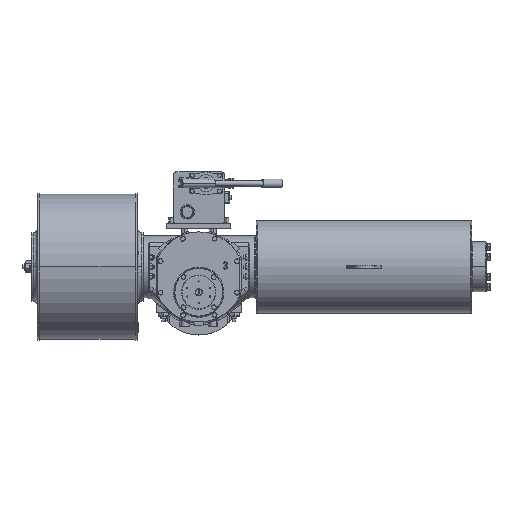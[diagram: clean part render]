
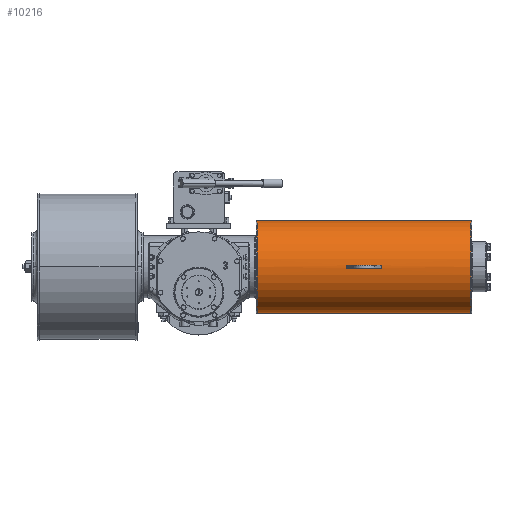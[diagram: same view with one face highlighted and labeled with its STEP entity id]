
A CAD part, top view. The second image highlights one B-rep face of the part: STEP entity #10216.
In plain terms, the highlighted cylindrical face has radius 162.5 mm (diameter 325 mm), a partial arc.
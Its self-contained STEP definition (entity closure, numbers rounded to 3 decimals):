
#42 = EDGE_CURVE ( 'NONE', #68941, #44743, #40491, .T. ) ;
#705 = ORIENTED_EDGE ( 'NONE', *, *, #67832, .T. ) ;
#1147 = CARTESIAN_POINT ( 'NONE',  ( 519.5, 40.5, 236.923 ) ) ;
#3742 = AXIS2_PLACEMENT_3D ( 'NONE', #52820, #29785, #22248 ) ;
#3833 = DIRECTION ( 'NONE',  ( 1., 0., 0. ) ) ;
#4131 = EDGE_CURVE ( 'NONE', #57969, #44743, #25744, .T. ) ;
#6046 = CARTESIAN_POINT ( 'NONE',  ( 639.5, 35.5, 237. ) ) ;
#6675 = AXIS2_PLACEMENT_3D ( 'NONE', #52305, #59824, #90378 ) ;
#9536 = VERTEX_POINT ( 'NONE', #6046 ) ;
#10216 = ADVANCED_FACE ( 'NONE', ( #66459, #35423 ), #96019, .T. ) ;
#10251 = ORIENTED_EDGE ( 'NONE', *, *, #39746, .F. ) ;
#11615 = DIRECTION ( 'NONE',  ( 1., 0., 0. ) ) ;
#12501 = ORIENTED_EDGE ( 'NONE', *, *, #67918, .T. ) ;
#13210 = CARTESIAN_POINT ( 'NONE',  ( 639.5, 30.5, 236.923 ) ) ;
#15334 = CARTESIAN_POINT ( 'NONE',  ( 208., 40.5, 236.923 ) ) ;
#17663 = CIRCLE ( 'NONE', #86489, 162.5 ) ;
#17764 = VECTOR ( 'NONE', #93880, 1000. ) ;
#18603 = VERTEX_POINT ( 'NONE', #13210 ) ;
#18622 = CARTESIAN_POINT ( 'NONE',  ( 208., 30.5, 236.923 ) ) ;
#21056 = VERTEX_POINT ( 'NONE', #44009 ) ;
#22248 = DIRECTION ( 'NONE',  ( 0., 1., 0. ) ) ;
#25237 = DIRECTION ( 'NONE',  ( 0., 1., 0. ) ) ;
#25744 = LINE ( 'NONE', #32280, #17764 ) ;
#26729 = DIRECTION ( 'NONE',  ( 1., 0., 0. ) ) ;
#27468 = AXIS2_PLACEMENT_3D ( 'NONE', #78107, #49546, #58038 ) ;
#27700 = CARTESIAN_POINT ( 'NONE',  ( 954., 198., 74.5 ) ) ;
#29370 = ORIENTED_EDGE ( 'NONE', *, *, #4131, .F. ) ;
#29785 = DIRECTION ( 'NONE',  ( -1., 0., 0. ) ) ;
#32280 = CARTESIAN_POINT ( 'NONE',  ( 208., 198., 74.5 ) ) ;
#35423 = FACE_OUTER_BOUND ( 'NONE', #54659, .T. ) ;
#36125 = AXIS2_PLACEMENT_3D ( 'NONE', #89502, #3833, #72010 ) ;
#36194 = DIRECTION ( 'NONE',  ( 0., 1., 0. ) ) ;
#37920 = LINE ( 'NONE', #15334, #44269 ) ;
#39746 = EDGE_CURVE ( 'NONE', #46363, #18603, #56690, .T. ) ;
#40491 = CIRCLE ( 'NONE', #45276, 162.5 ) ;
#41435 = CARTESIAN_POINT ( 'NONE',  ( 954., -127., 74.5 ) ) ;
#41659 = VERTEX_POINT ( 'NONE', #46755 ) ;
#41793 = CARTESIAN_POINT ( 'NONE',  ( 205., 35.5, 74.5 ) ) ;
#41948 = EDGE_CURVE ( 'NONE', #21056, #68941, #96264, .T. ) ;
#44009 = CARTESIAN_POINT ( 'NONE',  ( 205., -127., 74.5 ) ) ;
#44209 = CARTESIAN_POINT ( 'NONE',  ( 954., 35.5, 74.5 ) ) ;
#44269 = VECTOR ( 'NONE', #92484, 1000. ) ;
#44277 = EDGE_CURVE ( 'NONE', #76495, #9536, #94656, .T. ) ;
#44743 = VERTEX_POINT ( 'NONE', #27700 ) ;
#45268 = EDGE_LOOP ( 'NONE', ( #10251, #705, #85383, #63534, #97807, #12501 ) ) ;
#45276 = AXIS2_PLACEMENT_3D ( 'NONE', #44209, #51226, #36194 ) ;
#46363 = VERTEX_POINT ( 'NONE', #81579 ) ;
#46755 = CARTESIAN_POINT ( 'NONE',  ( 519.5, 35.5, 237. ) ) ;
#46989 = CIRCLE ( 'NONE', #3742, 162.5 ) ;
#49525 = EDGE_CURVE ( 'NONE', #57969, #21056, #17663, .T. ) ;
#49546 = DIRECTION ( 'NONE',  ( -1., 0., 0. ) ) ;
#51226 = DIRECTION ( 'NONE',  ( -1., 0., 0. ) ) ;
#52305 = CARTESIAN_POINT ( 'NONE',  ( 639.5, 35.5, 74.5 ) ) ;
#52820 = CARTESIAN_POINT ( 'NONE',  ( 519.5, 35.5, 74.5 ) ) ;
#54659 = EDGE_LOOP ( 'NONE', ( #71292, #76523, #63914, #29370 ) ) ;
#56632 = CARTESIAN_POINT ( 'NONE',  ( 205., 198., 74.5 ) ) ;
#56690 = LINE ( 'NONE', #18622, #83914 ) ;
#57969 = VERTEX_POINT ( 'NONE', #56632 ) ;
#58038 = DIRECTION ( 'NONE',  ( 0., 1., 0. ) ) ;
#59016 = DIRECTION ( 'NONE',  ( 0., -1., 0. ) ) ;
#59824 = DIRECTION ( 'NONE',  ( 1., 0., 0. ) ) ;
#63534 = ORIENTED_EDGE ( 'NONE', *, *, #89187, .T. ) ;
#63914 = ORIENTED_EDGE ( 'NONE', *, *, #42, .T. ) ;
#66459 = FACE_BOUND ( 'NONE', #45268, .T. ) ;
#67832 = EDGE_CURVE ( 'NONE', #46363, #41659, #69079, .T. ) ;
#67918 = EDGE_CURVE ( 'NONE', #9536, #18603, #97865, .T. ) ;
#68941 = VERTEX_POINT ( 'NONE', #41435 ) ;
#69079 = CIRCLE ( 'NONE', #27468, 162.5 ) ;
#71292 = ORIENTED_EDGE ( 'NONE', *, *, #49525, .T. ) ;
#72010 = DIRECTION ( 'NONE',  ( 0., 1., 0. ) ) ;
#72086 = CARTESIAN_POINT ( 'NONE',  ( 639.5, 35.5, 74.5 ) ) ;
#73584 = DIRECTION ( 'NONE',  ( 1., 0., 0. ) ) ;
#76495 = VERTEX_POINT ( 'NONE', #78711 ) ;
#76523 = ORIENTED_EDGE ( 'NONE', *, *, #41948, .T. ) ;
#77122 = VECTOR ( 'NONE', #11615, 1000. ) ;
#78107 = CARTESIAN_POINT ( 'NONE',  ( 519.5, 35.5, 74.5 ) ) ;
#78711 = CARTESIAN_POINT ( 'NONE',  ( 639.5, 40.5, 236.923 ) ) ;
#79774 = DIRECTION ( 'NONE',  ( 1., 0., 0. ) ) ;
#80264 = CARTESIAN_POINT ( 'NONE',  ( 208., -127., 74.5 ) ) ;
#81579 = CARTESIAN_POINT ( 'NONE',  ( 519.5, 30.5, 236.923 ) ) ;
#83914 = VECTOR ( 'NONE', #79774, 1000. ) ;
#85383 = ORIENTED_EDGE ( 'NONE', *, *, #98687, .T. ) ;
#86489 = AXIS2_PLACEMENT_3D ( 'NONE', #41793, #26729, #25237 ) ;
#89187 = EDGE_CURVE ( 'NONE', #89497, #76495, #37920, .T. ) ;
#89497 = VERTEX_POINT ( 'NONE', #1147 ) ;
#89502 = CARTESIAN_POINT ( 'NONE',  ( 208., 35.5, 74.5 ) ) ;
#90378 = DIRECTION ( 'NONE',  ( 0., -1., 0. ) ) ;
#91453 = AXIS2_PLACEMENT_3D ( 'NONE', #72086, #73584, #59016 ) ;
#92484 = DIRECTION ( 'NONE',  ( 1., 0., 0. ) ) ;
#93880 = DIRECTION ( 'NONE',  ( 1., 0., 0. ) ) ;
#94656 = CIRCLE ( 'NONE', #6675, 162.5 ) ;
#96019 = CYLINDRICAL_SURFACE ( 'NONE', #36125, 162.5 ) ;
#96264 = LINE ( 'NONE', #80264, #77122 ) ;
#97807 = ORIENTED_EDGE ( 'NONE', *, *, #44277, .T. ) ;
#97865 = CIRCLE ( 'NONE', #91453, 162.5 ) ;
#98687 = EDGE_CURVE ( 'NONE', #41659, #89497, #46989, .T. ) ;
